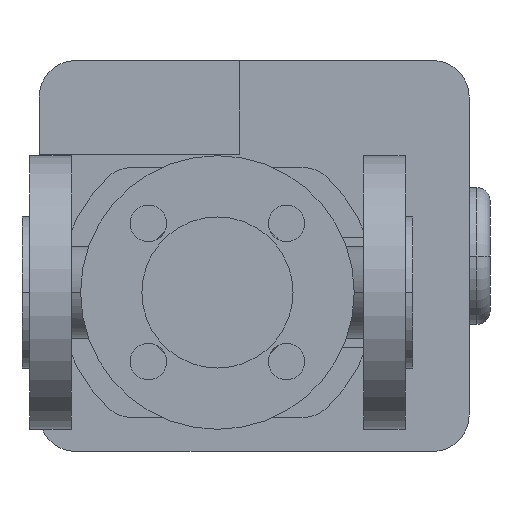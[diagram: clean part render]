
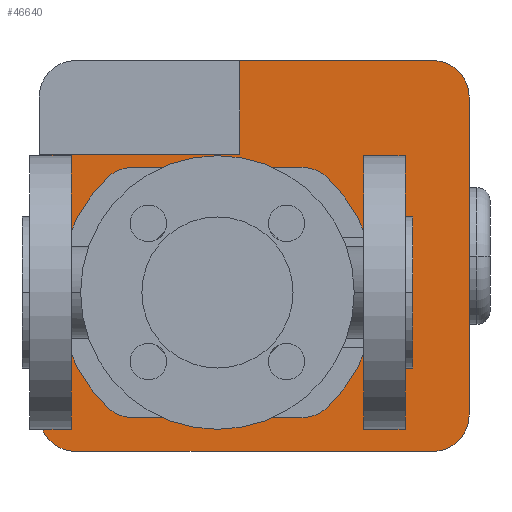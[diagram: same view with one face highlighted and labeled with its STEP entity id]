
A CAD part, front view. The second image highlights one B-rep face of the part: STEP entity #46640.
In plain terms, the highlighted planar face has unit normal (0, -1, 0).
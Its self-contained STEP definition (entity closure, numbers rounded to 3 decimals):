
#38380=CARTESIAN_POINT('',(134.96,313.,11.216));
#38390=VERTEX_POINT('',#38380);
#38420=CARTESIAN_POINT('',(125.,313.,0.));
#38430=DIRECTION('',(0.,1.,0.));
#38440=DIRECTION('',(0.,0.,1.));
#38450=AXIS2_PLACEMENT_3D('',#38420,#38430,#38440);
#38460=CIRCLE('',#38450,15.);
#38470=CARTESIAN_POINT('',(134.96,313.,-11.216));
#38480=VERTEX_POINT('',#38470);
#38490=EDGE_CURVE('',#38390,#38480,#38460,.T.);
#41210=CARTESIAN_POINT('',(117.116,313.,44.128));
#41220=VERTEX_POINT('',#41210);
#41250=CARTESIAN_POINT('',(75.,313.,0.));
#41260=DIRECTION('',(0.,1.,0.));
#41270=DIRECTION('',(0.69,0.,0.723));
#41280=AXIS2_PLACEMENT_3D('',#41250,#41260,#41270);
#41290=CIRCLE('',#41280,61.);
#41300=EDGE_CURVE('',#41220,#38390,#41290,.T.);
#41690=CARTESIAN_POINT('',(15.04,313.,-11.216));
#41700=VERTEX_POINT('',#41690);
#41730=CARTESIAN_POINT('',(25.,313.,0.));
#41740=DIRECTION('',(0.,1.,0.));
#41750=DIRECTION('',(0.,0.,-1.));
#41760=AXIS2_PLACEMENT_3D('',#41730,#41740,#41750);
#41770=CIRCLE('',#41760,15.);
#41780=CARTESIAN_POINT('',(15.04,313.,11.216));
#41790=VERTEX_POINT('',#41780);
#41800=EDGE_CURVE('',#41700,#41790,#41770,.T.);
#42790=CARTESIAN_POINT('',(32.884,313.,-44.128));
#42800=VERTEX_POINT('',#42790);
#42830=CARTESIAN_POINT('',(75.,313.,0.));
#42840=DIRECTION('',(0.,1.,0.));
#42850=DIRECTION('',(-0.69,0.,-0.723));
#42860=AXIS2_PLACEMENT_3D('',#42830,#42840,#42850);
#42870=CIRCLE('',#42860,61.);
#42880=EDGE_CURVE('',#42800,#41700,#42870,.T.);
#45100=CARTESIAN_POINT('',(75.,313.,0.));
#45110=DIRECTION('',(0.,1.,0.));
#45120=DIRECTION('',(0.,0.,1.));
#45130=AXIS2_PLACEMENT_3D('',#45100,#45110,#45120);
#45140=PLANE('',#45130);
#45150=ORIENTED_EDGE('',*,*,#41300,.T.);
#45160=CARTESIAN_POINT('',(107.45,313.,34.));
#45170=DIRECTION('',(0.,1.,0.));
#45180=DIRECTION('',(0.,0.,1.));
#45190=AXIS2_PLACEMENT_3D('',#45160,#45170,#45180);
#45200=CIRCLE('',#45190,14.);
#45210=CARTESIAN_POINT('',(107.45,313.,48.));
#45220=VERTEX_POINT('',#45210);
#45230=EDGE_CURVE('',#45220,#41220,#45200,.T.);
#45240=ORIENTED_EDGE('',*,*,#45230,.T.);
#45250=CARTESIAN_POINT('',(58.775,313.,48.));
#45260=DIRECTION('',(1.,0.,0.));
#45270=VECTOR('',#45260,1.);
#45280=LINE('',#45250,#45270);
#45290=CARTESIAN_POINT('',(42.55,313.,48.));
#45300=VERTEX_POINT('',#45290);
#45310=EDGE_CURVE('',#45300,#45220,#45280,.T.);
#45320=ORIENTED_EDGE('',*,*,#45310,.T.);
#45330=CARTESIAN_POINT('',(42.55,313.,34.));
#45340=DIRECTION('',(0.,1.,0.));
#45350=DIRECTION('',(-0.69,0.,0.723));
#45360=AXIS2_PLACEMENT_3D('',#45330,#45340,#45350);
#45370=CIRCLE('',#45360,14.);
#45380=CARTESIAN_POINT('',(32.884,313.,44.128));
#45390=VERTEX_POINT('',#45380);
#45400=EDGE_CURVE('',#45390,#45300,#45370,.T.);
#45410=ORIENTED_EDGE('',*,*,#45400,.T.);
#45420=CARTESIAN_POINT('',(75.,313.,0.));
#45430=DIRECTION('',(0.,1.,0.));
#45440=DIRECTION('',(-0.69,0.,-0.723));
#45450=AXIS2_PLACEMENT_3D('',#45420,#45430,#45440);
#45460=CIRCLE('',#45450,61.);
#45470=EDGE_CURVE('',#41790,#45390,#45460,.T.);
#45480=ORIENTED_EDGE('',*,*,#45470,.T.);
#45490=ORIENTED_EDGE('',*,*,#41800,.T.);
#45500=ORIENTED_EDGE('',*,*,#42880,.T.);
#45510=CARTESIAN_POINT('',(42.55,313.,-34.));
#45520=DIRECTION('',(0.,1.,0.));
#45530=DIRECTION('',(0.,0.,-1.));
#45540=AXIS2_PLACEMENT_3D('',#45510,#45520,#45530);
#45550=CIRCLE('',#45540,14.);
#45560=CARTESIAN_POINT('',(42.55,313.,-48.));
#45570=VERTEX_POINT('',#45560);
#45580=EDGE_CURVE('',#45570,#42800,#45550,.T.);
#45590=ORIENTED_EDGE('',*,*,#45580,.T.);
#45600=CARTESIAN_POINT('',(91.225,313.,-48.));
#45610=DIRECTION('',(-1.,0.,0.));
#45620=VECTOR('',#45610,1.);
#45630=LINE('',#45600,#45620);
#45640=CARTESIAN_POINT('',(107.45,313.,-48.));
#45650=VERTEX_POINT('',#45640);
#45660=EDGE_CURVE('',#45650,#45570,#45630,.T.);
#45670=ORIENTED_EDGE('',*,*,#45660,.T.);
#45680=CARTESIAN_POINT('',(107.45,313.,-34.));
#45690=DIRECTION('',(0.,1.,0.));
#45700=DIRECTION('',(0.69,0.,-0.723));
#45710=AXIS2_PLACEMENT_3D('',#45680,#45690,#45700);
#45720=CIRCLE('',#45710,14.);
#45730=CARTESIAN_POINT('',(117.116,313.,-44.128));
#45740=VERTEX_POINT('',#45730);
#45750=EDGE_CURVE('',#45740,#45650,#45720,.T.);
#45760=ORIENTED_EDGE('',*,*,#45750,.T.);
#45770=CARTESIAN_POINT('',(75.,313.,0.));
#45780=DIRECTION('',(0.,1.,0.));
#45790=DIRECTION('',(0.69,0.,0.723));
#45800=AXIS2_PLACEMENT_3D('',#45770,#45780,#45790);
#45810=CIRCLE('',#45800,61.);
#45820=EDGE_CURVE('',#38480,#45740,#45810,.T.);
#45830=ORIENTED_EDGE('',*,*,#45820,.T.);
#45840=ORIENTED_EDGE('',*,*,#38490,.T.);
#45850=EDGE_LOOP('',(#45840,#45830,#45760,#45670,#45590,#45500,#45490,
#45480,#45410,#45320,#45240,#45150));
#45860=FACE_BOUND('',#45850,.T.);
#45870=CARTESIAN_POINT('',(83.6,313.,26.5));
#45880=DIRECTION('',(0.,0.,-1.));
#45890=VECTOR('',#45880,1.);
#45900=LINE('',#45870,#45890);
#45910=CARTESIAN_POINT('',(83.6,313.,89.));
#45920=VERTEX_POINT('',#45910);
#45930=CARTESIAN_POINT('',(83.6,313.,53.));
#45940=VERTEX_POINT('',#45930);
#45950=EDGE_CURVE('',#45920,#45940,#45900,.T.);
#45960=ORIENTED_EDGE('',*,*,#45950,.T.);
#45970=CARTESIAN_POINT('',(20.6,313.,89.));
#45980=DIRECTION('',(1.,0.,0.));
#45990=VECTOR('',#45980,1.);
#46000=LINE('',#45970,#45990);
#46010=CARTESIAN_POINT('',(157.6,313.,89.));
#46020=VERTEX_POINT('',#46010);
#46030=EDGE_CURVE('',#45920,#46020,#46000,.T.);
#46040=ORIENTED_EDGE('',*,*,#46030,.F.);
#46050=CARTESIAN_POINT('',(157.6,313.,75.));
#46060=DIRECTION('',(0.,1.,0.));
#46070=DIRECTION('',(0.,0.,1.));
#46080=AXIS2_PLACEMENT_3D('',#46050,#46060,#46070);
#46090=CIRCLE('',#46080,14.);
#46100=CARTESIAN_POINT('',(171.6,313.,75.));
#46110=VERTEX_POINT('',#46100);
#46120=EDGE_CURVE('',#46020,#46110,#46090,.T.);
#46130=ORIENTED_EDGE('',*,*,#46120,.F.);
#46140=CARTESIAN_POINT('',(171.6,313.,75.));
#46150=DIRECTION('',(0.,0.,-1.));
#46160=VECTOR('',#46150,1.);
#46170=LINE('',#46140,#46160);
#46180=CARTESIAN_POINT('',(171.6,313.,-47.));
#46190=VERTEX_POINT('',#46180);
#46200=EDGE_CURVE('',#46110,#46190,#46170,.T.);
#46210=ORIENTED_EDGE('',*,*,#46200,.F.);
#46220=CARTESIAN_POINT('',(157.6,313.,-47.));
#46230=DIRECTION('',(0.,1.,0.));
#46240=DIRECTION('',(1.,0.,0.));
#46250=AXIS2_PLACEMENT_3D('',#46220,#46230,#46240);
#46260=CIRCLE('',#46250,14.);
#46270=CARTESIAN_POINT('',(157.6,313.,-61.));
#46280=VERTEX_POINT('',#46270);
#46290=EDGE_CURVE('',#46190,#46280,#46260,.T.);
#46300=ORIENTED_EDGE('',*,*,#46290,.F.);
#46310=CARTESIAN_POINT('',(157.6,313.,-61.));
#46320=DIRECTION('',(-1.,0.,0.));
#46330=VECTOR('',#46320,1.);
#46340=LINE('',#46310,#46330);
#46350=CARTESIAN_POINT('',(20.6,313.,-61.));
#46360=VERTEX_POINT('',#46350);
#46370=EDGE_CURVE('',#46280,#46360,#46340,.T.);
#46380=ORIENTED_EDGE('',*,*,#46370,.F.);
#46390=CARTESIAN_POINT('',(20.6,313.,-47.));
#46400=DIRECTION('',(0.,1.,0.));
#46410=DIRECTION('',(0.,0.,-1.));
#46420=AXIS2_PLACEMENT_3D('',#46390,#46400,#46410);
#46430=CIRCLE('',#46420,14.);
#46440=CARTESIAN_POINT('',(6.6,313.,-47.));
#46450=VERTEX_POINT('',#46440);
#46460=EDGE_CURVE('',#46360,#46450,#46430,.T.);
#46470=ORIENTED_EDGE('',*,*,#46460,.F.);
#46480=CARTESIAN_POINT('',(6.6,313.,-47.));
#46490=DIRECTION('',(0.,0.,1.));
#46500=VECTOR('',#46490,1.);
#46510=LINE('',#46480,#46500);
#46520=CARTESIAN_POINT('',(6.6,313.,53.));
#46530=VERTEX_POINT('',#46520);
#46540=EDGE_CURVE('',#46450,#46530,#46510,.T.);
#46550=ORIENTED_EDGE('',*,*,#46540,.F.);
#46560=CARTESIAN_POINT('',(40.3,313.,53.));
#46570=DIRECTION('',(-1.,0.,0.));
#46580=VECTOR('',#46570,1.);
#46590=LINE('',#46560,#46580);
#46600=EDGE_CURVE('',#45940,#46530,#46590,.T.);
#46610=ORIENTED_EDGE('',*,*,#46600,.T.);
#46620=EDGE_LOOP('',(#46610,#46550,#46470,#46380,#46300,#46210,#46130,
#46040,#45960));
#46630=FACE_OUTER_BOUND('',#46620,.T.);
#46640=ADVANCED_FACE('',(#45860,#46630),#45140,.F.);
